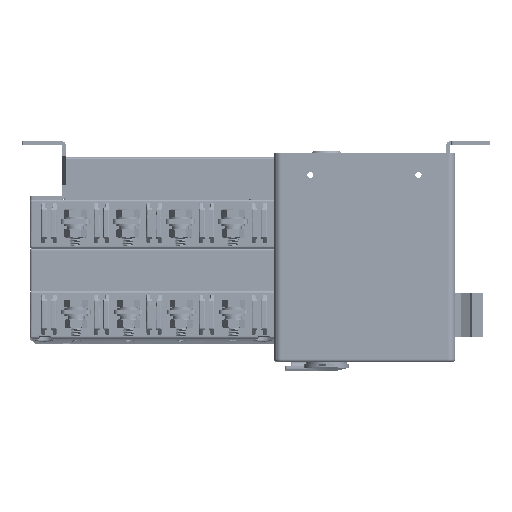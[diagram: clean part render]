
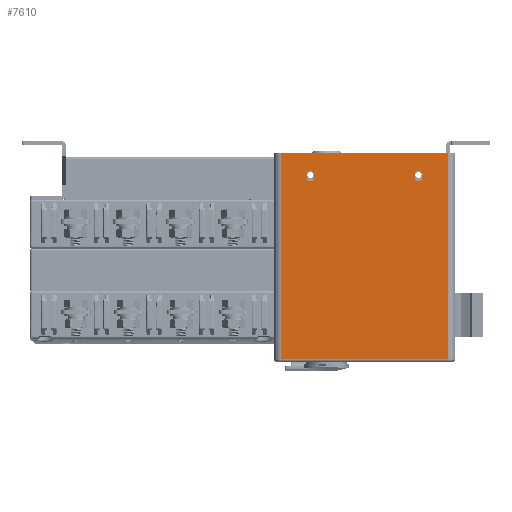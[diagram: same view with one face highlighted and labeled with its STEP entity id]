
A CAD part, top view. The second image highlights one B-rep face of the part: STEP entity #7610.
In plain terms, the highlighted planar face has unit normal (0, 0, 1).
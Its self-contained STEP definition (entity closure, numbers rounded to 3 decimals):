
#4472=DIRECTION('',(0.,-1.,0.));
#4473=VECTOR('',#4472,141.5);
#4474=CARTESIAN_POINT('',(-60.5,32.,67.5));
#4475=LINE('',#4474,#4473);
#4480=DIRECTION('',(1.,0.,0.));
#4481=VECTOR('',#4480,114.);
#4482=CARTESIAN_POINT('',(-60.5,32.,67.5));
#4483=LINE('',#4482,#4481);
#4484=CARTESIAN_POINT('',(-40.5,17.,67.5));
#4485=DIRECTION('',(0.,0.,1.));
#4486=DIRECTION('',(1.,0.,0.));
#4487=AXIS2_PLACEMENT_3D('',#4484,#4485,#4486);
#4489=CARTESIAN_POINT('',(-40.5,15.,67.5));
#4490=DIRECTION('',(0.,0.,1.));
#4491=DIRECTION('',(-1.,0.,0.));
#4492=AXIS2_PLACEMENT_3D('',#4489,#4490,#4491);
#4494=CARTESIAN_POINT('',(33.5,17.,67.5));
#4495=DIRECTION('',(0.,0.,1.));
#4496=DIRECTION('',(1.,0.,0.));
#4497=AXIS2_PLACEMENT_3D('',#4494,#4495,#4496);
#4499=CARTESIAN_POINT('',(33.5,15.,67.5));
#4500=DIRECTION('',(0.,0.,1.));
#4501=DIRECTION('',(-1.,0.,0.));
#4502=AXIS2_PLACEMENT_3D('',#4499,#4500,#4501);
#4508=DIRECTION('',(0.,1.,0.));
#4509=VECTOR('',#4508,141.5);
#4510=CARTESIAN_POINT('',(53.5,-109.5,67.5));
#4511=LINE('',#4510,#4509);
#4579=DIRECTION('',(1.,0.,0.));
#4580=VECTOR('',#4579,114.);
#4581=CARTESIAN_POINT('',(-60.5,-109.5,67.5));
#4582=LINE('',#4581,#4580);
#4897=DIRECTION('',(0.,-1.,0.));
#4898=VECTOR('',#4897,2.);
#4899=CARTESIAN_POINT('',(-37.9,17.,67.5));
#4900=LINE('',#4899,#4898);
#4909=DIRECTION('',(0.,1.,0.));
#4910=VECTOR('',#4909,2.);
#4911=CARTESIAN_POINT('',(-43.1,15.,67.5));
#4912=LINE('',#4911,#4910);
#4921=DIRECTION('',(0.,-1.,0.));
#4922=VECTOR('',#4921,2.);
#4923=CARTESIAN_POINT('',(36.1,17.,67.5));
#4924=LINE('',#4923,#4922);
#4933=DIRECTION('',(0.,1.,0.));
#4934=VECTOR('',#4933,2.);
#4935=CARTESIAN_POINT('',(30.9,15.,67.5));
#4936=LINE('',#4935,#4934);
#6387=CARTESIAN_POINT('',(53.5,32.,67.5));
#6388=VERTEX_POINT('',#6387);
#6389=CARTESIAN_POINT('',(-60.5,32.,67.5));
#6390=VERTEX_POINT('',#6389);
#6879=CARTESIAN_POINT('',(-60.5,-109.5,67.5));
#6880=VERTEX_POINT('',#6879);
#6881=CARTESIAN_POINT('',(53.5,-109.5,67.5));
#6882=VERTEX_POINT('',#6881);
#6883=CARTESIAN_POINT('',(-37.9,17.,67.5));
#6884=CARTESIAN_POINT('',(-37.9,15.,67.5));
#6885=VERTEX_POINT('',#6883);
#6886=VERTEX_POINT('',#6884);
#6887=CARTESIAN_POINT('',(-43.1,17.,67.5));
#6888=VERTEX_POINT('',#6887);
#6889=CARTESIAN_POINT('',(-43.1,15.,67.5));
#6890=VERTEX_POINT('',#6889);
#6891=CARTESIAN_POINT('',(36.1,17.,67.5));
#6892=CARTESIAN_POINT('',(36.1,15.,67.5));
#6893=VERTEX_POINT('',#6891);
#6894=VERTEX_POINT('',#6892);
#6895=CARTESIAN_POINT('',(30.9,17.,67.5));
#6896=VERTEX_POINT('',#6895);
#6897=CARTESIAN_POINT('',(30.9,15.,67.5));
#6898=VERTEX_POINT('',#6897);
#7577=CARTESIAN_POINT('',(-47.5,29.,67.5));
#7578=DIRECTION('',(0.,0.,1.));
#7579=DIRECTION('',(1.,0.,0.));
#7580=AXIS2_PLACEMENT_3D('',#7577,#7578,#7579);
#7581=PLANE('',#7580);
#7582=ORIENTED_EDGE('',*,*,#7129,.T.);
#7584=ORIENTED_EDGE('',*,*,#7583,.F.);
#7586=ORIENTED_EDGE('',*,*,#7585,.F.);
#7587=ORIENTED_EDGE('',*,*,#7569,.F.);
#7588=EDGE_LOOP('',(#7582,#7584,#7586,#7587));
#7589=FACE_OUTER_BOUND('',#7588,.F.);
#7591=ORIENTED_EDGE('',*,*,#7590,.F.);
#7593=ORIENTED_EDGE('',*,*,#7592,.T.);
#7595=ORIENTED_EDGE('',*,*,#7594,.F.);
#7597=ORIENTED_EDGE('',*,*,#7596,.T.);
#7598=EDGE_LOOP('',(#7591,#7593,#7595,#7597));
#7599=FACE_BOUND('',#7598,.F.);
#7601=ORIENTED_EDGE('',*,*,#7600,.F.);
#7603=ORIENTED_EDGE('',*,*,#7602,.T.);
#7605=ORIENTED_EDGE('',*,*,#7604,.F.);
#7607=ORIENTED_EDGE('',*,*,#7606,.T.);
#7608=EDGE_LOOP('',(#7601,#7603,#7605,#7607));
#7609=FACE_BOUND('',#7608,.F.);
#4488=CIRCLE('',#4487,2.6);
#4493=CIRCLE('',#4492,2.6);
#4498=CIRCLE('',#4497,2.6);
#4503=CIRCLE('',#4502,2.6);
#7129=EDGE_CURVE('',#6390,#6388,#4483,.T.);
#7569=EDGE_CURVE('',#6390,#6880,#4475,.T.);
#7583=EDGE_CURVE('',#6882,#6388,#4511,.T.);
#7585=EDGE_CURVE('',#6880,#6882,#4582,.T.);
#7590=EDGE_CURVE('',#6885,#6886,#4900,.T.);
#7592=EDGE_CURVE('',#6885,#6888,#4488,.T.);
#7594=EDGE_CURVE('',#6890,#6888,#4912,.T.);
#7596=EDGE_CURVE('',#6890,#6886,#4493,.T.);
#7600=EDGE_CURVE('',#6893,#6894,#4924,.T.);
#7602=EDGE_CURVE('',#6893,#6896,#4498,.T.);
#7604=EDGE_CURVE('',#6898,#6896,#4936,.T.);
#7606=EDGE_CURVE('',#6898,#6894,#4503,.T.);
#7610=ADVANCED_FACE('',(#7589,#7599,#7609),#7581,.T.);
